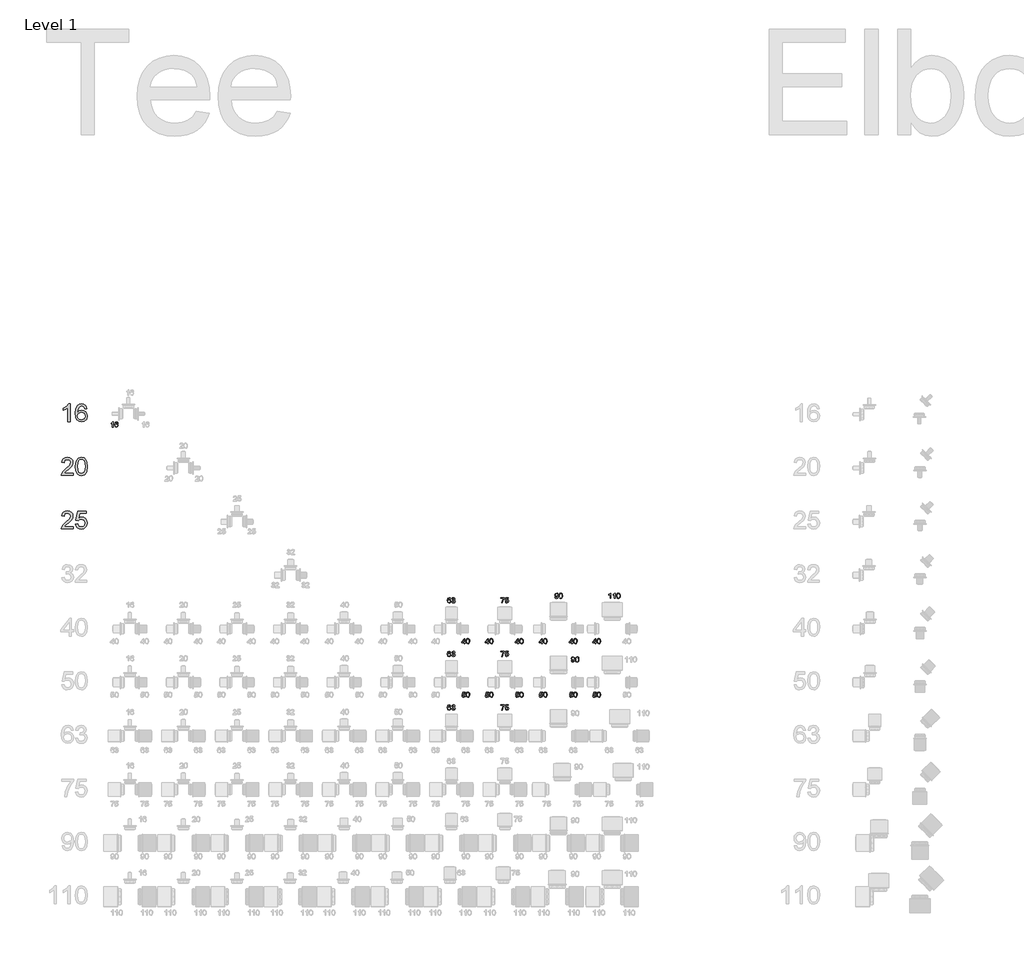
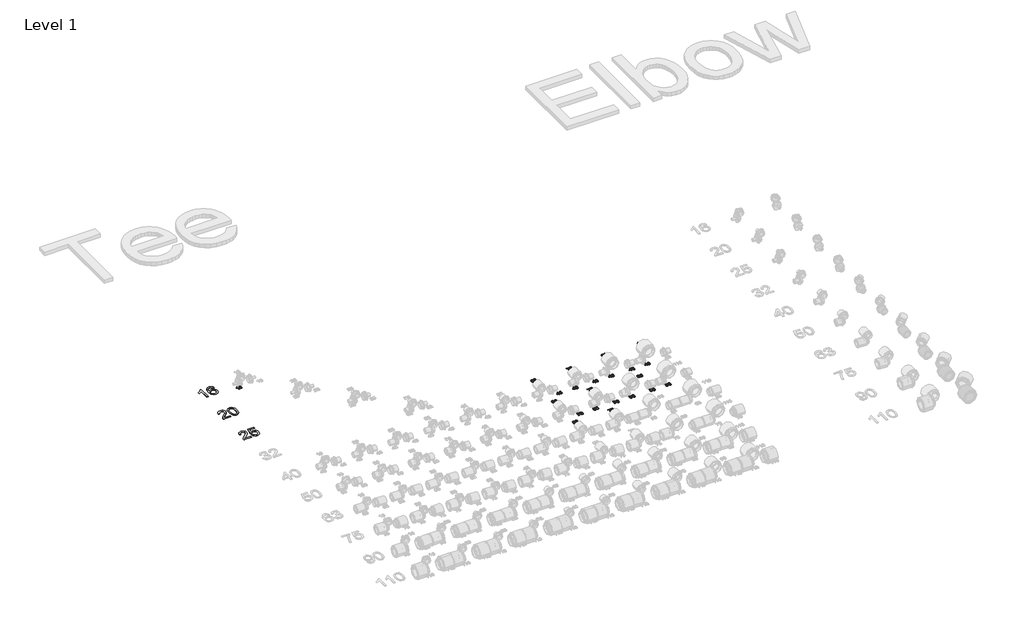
# One storey, part 25 of 58: 25 proxies.
"""IFC4 building model written with IfcOpenShell, lengths in millimetres."""

from ifc_helpers import new_model, si_unit, frame, origin, place, context, project, spatial, polyline, outline, extrude, element, save

model = new_model("IFC4")

# Units and contexts
model_context = context("Model", 3, world=origin())
ifc_project = project(units=[si_unit("LENGTHUNIT", "METRE", prefix="MILLI")], contexts=[model_context])

# Site, building, storey
site = spatial("IfcSite", under=ifc_project)
building = spatial("IfcBuilding", under=site)
storey = spatial("IfcBuildingStorey", under=building, Name="Level 1", Elevation=27.3876384)

# Proxies
placement = place(None, origin())
element("IfcBuildingElementProxy", 1, Name="100mm Arial", ObjectType="100mm Arial", at=placement, inside=storey, context=model_context, shape_type="SweptSolid", body=[
    extrude(outline(polyline([(12931.5703727, 18606.196048), (12919.0133339, 18606.196048), (12919.0133339, 18684.4813365), (12907.1184827, 18676.0077879), (12893.8992564, 18669.6679549), (12893.8992564, 18681.5382806), (12912.3056189, 18693.285979), (12923.4769688, 18706.6523581), (12931.5703727, 18706.6523581), (12931.5703727, 18606.196048)])), frame((0.0, 0.0, 27.3876384), z_axis=(0.0, 0.0, 1.0), x_axis=(1.0, 0.0, 0.0)), (0.0, 0.0, 1.0), 2.0),
    extrude(outline(polyline([(13025.7481635, 18679.9686507), (13013.1911247, 18678.3990209), (13008.4331842, 18688.871395), (12995.85162, 18694.0953193), (12984.5208545, 18691.0541615), (12975.949204, 18679.6375569), (12972.3807487, 18657.2580689), (12983.4539967, 18667.2767219), (12997.1759952, 18670.5508717), (13008.7765407, 18668.3129229), (13018.5131509, 18661.5990764), (13025.1166327, 18651.3413001), (13027.3177933, 18638.4715617), (13023.1729895, 18621.1443197), (13011.7686476, 18608.8815865), (12995.3120597, 18604.6264181), (12981.0658295, 18607.4468468), (12969.7197356, 18615.9081326), (12962.2977163, 18630.8441416), (12959.8237099, 18653.0887396), (12962.5705621, 18678.0985839), (12970.8111188, 18695.1989653), (12982.0621765, 18703.7890099), (12996.6364349, 18706.6523581), (13007.6545007, 18704.8803932), (13016.4775372, 18699.5644983), (13022.6579547, 18691.1216066), (13025.7481635, 18679.9686507)]), holes=[polyline([(12972.3807487, 18638.6677654), (12975.2870164, 18627.7907211), (12983.0125383, 18619.8935209), (12994.3310411, 18617.1834569), (13002.617583, 18618.5875398), (13009.13216, 18622.7997887), (13013.3536059, 18629.4216646), (13014.7607545, 18638.0546288), (13013.372, 18646.3411707), (13009.2057364, 18652.659544), (13002.5807948, 18656.6602607), (12993.8160063, 18657.9938329), (12978.6224799, 18652.659544), (12973.9411815, 18646.4944549), (12972.3807487, 18638.6677654)])]), frame((0.0, 0.0, 27.3876384), z_axis=(0.0, 0.0, 1.0), x_axis=(1.0, 0.0, 0.0)), (0.0, 0.0, 1.0), 2.0),
])
element("IfcBuildingElementProxy", 2, Name="100mm Arial", ObjectType="100mm Arial", at=placement, inside=storey, context=model_context, shape_type="SweptSolid", body=[
    extrude(outline(polyline([(12948.836301, 18318.7530867), (12948.836301, 18306.196048), (12882.9118475, 18306.196048), (12884.2607481, 18314.8535376), (12891.8881681, 18328.1831285), (12907.6089921, 18342.7389928), (12929.2895043, 18363.6592156), (12934.7096324, 18377.8839861), (12929.5960726, 18389.3986925), (12916.2419562, 18394.0953193), (12902.3237541, 18389.5090571), (12897.0385161, 18376.829391), (12884.4814773, 18378.3990209), (12887.5257008, 18390.5452581), (12894.1077228, 18399.4173455), (12903.8841869, 18404.843605), (12916.5117363, 18406.6523581), (12929.2312563, 18404.6412699), (12938.9893263, 18398.6080052), (12945.1973349, 18389.5948963), (12947.2666711, 18378.6442756), (12945.0348537, 18366.7371616), (12937.6159001, 18354.4253775), (12919.6264706, 18337.2207629), (12905.1809709, 18325.1419707), (12899.5155882, 18318.7530867), (12948.836301, 18318.7530867)])), frame((0.0, 0.0, 27.3876384), z_axis=(0.0, 0.0, 1.0), x_axis=(1.0, 0.0, 0.0)), (0.0, 0.0, 1.0), 2.0),
    extrude(outline(polyline([(12961.3933398, 18355.6148627), (12965.0844224, 18384.5181247), (12976.0473059, 18401.1831791), (12994.3555665, 18406.6523581), (13009.0217954, 18403.4149966), (13019.150813, 18394.0830566), (13025.0369249, 18379.220624), (13027.3177933, 18355.6148627), (13023.6634988, 18326.8342279), (13012.7374036, 18310.1323853), (13004.5060439, 18306.0029099), (12994.3555665, 18304.6264181), (12981.3080184, 18307.0176511), (12971.39973, 18314.19135), (12963.8949373, 18331.1813668), (12961.3933398, 18355.6148627)]), holes=[polyline([(12973.9503785, 18355.6393881), (12975.4219065, 18335.8871907), (12979.8364905, 18324.4552577), (12986.4093154, 18319.0014071), (12994.3555665, 18317.1834569), (13002.3018176, 18319.0075385), (13008.8746426, 18324.4797831), (13013.2892265, 18335.9178475), (13014.7607545, 18355.6393881), (13013.3382775, 18374.9470615), (13009.0708463, 18386.4678993), (13002.5102841, 18392.1884643), (12994.2084137, 18394.0953193), (12986.3480018, 18392.4153249), (12980.0326942, 18387.3753416), (12975.4709574, 18375.1371339), (12973.9503785, 18355.6393881)])]), frame((0.0, 0.0, 27.3876384), z_axis=(0.0, 0.0, 1.0), x_axis=(1.0, 0.0, 0.0)), (0.0, 0.0, 1.0), 2.0),
])
element("IfcBuildingElementProxy", 3, Name="100mm Arial", ObjectType="100mm Arial", at=placement, inside=storey, context=model_context, shape_type="SweptSolid", body=[
    extrude(outline(polyline([(12948.836301, 18018.7530867), (12948.836301, 18006.196048), (12882.9118475, 18006.196048), (12884.2607481, 18014.8535376), (12891.8881681, 18028.1831285), (12907.6089921, 18042.7389928), (12929.2895043, 18063.6592156), (12934.7096324, 18077.8839861), (12929.5960726, 18089.3986925), (12916.2419562, 18094.0953193), (12902.3237541, 18089.5090571), (12897.0385161, 18076.829391), (12884.4814773, 18078.3990209), (12887.5257008, 18090.5452581), (12894.1077228, 18099.4173455), (12903.8841869, 18104.843605), (12916.5117363, 18106.6523581), (12929.2312563, 18104.6412699), (12938.9893263, 18098.6080052), (12945.1973349, 18089.5948963), (12947.2666711, 18078.6442756), (12945.0348537, 18066.7371616), (12937.6159001, 18054.4253775), (12919.6264706, 18037.2207629), (12905.1809709, 18025.1419707), (12899.5155882, 18018.7530867), (12948.836301, 18018.7530867)])), frame((0.0, 0.0, 27.3876384), z_axis=(0.0, 0.0, 1.0), x_axis=(1.0, 0.0, 0.0)), (0.0, 0.0, 1.0), 2.0),
    extrude(outline(polyline([(12961.3933398, 18032.8797554), (12973.9503785, 18034.4493852), (12980.2779488, 18021.5122017), (12993.3990733, 18017.1834569), (13002.3999195, 18018.6887074), (13009.1444227, 18023.2044589), (13013.3566716, 18030.2095452), (13014.7607545, 18039.1828002), (13009.500042, 18054.0942837), (13002.8934945, 18058.196168), (12993.5952771, 18059.5634627), (12982.57108, 18057.3806962), (12975.5200084, 18051.7153135), (12962.9629696, 18053.2849434), (12973.9503785, 18105.0827283), (13022.6089038, 18105.0827283), (13022.6089038, 18092.5256895), (12984.1039216, 18092.5256895), (12978.7328445, 18064.8609635), (12987.7030338, 18070.305617), (12997.1024188, 18072.1205015), (13008.8347887, 18069.87029), (13018.5744645, 18063.1196554), (13025.1319611, 18052.8312222), (13027.3177933, 18039.9676151), (13025.3496246, 18027.4105764), (13019.4451186, 18016.6684221), (13008.1388786, 18007.6369191), (12993.3500224, 18004.6264181), (12981.0167785, 18006.5608643), (12971.1912636, 18012.3642028), (12964.4559574, 18021.3619832), (12961.3933398, 18032.8797554)])), frame((0.0, 0.0, 27.3876384), z_axis=(0.0, 0.0, 1.0), x_axis=(1.0, 0.0, 0.0)), (0.0, 0.0, 1.0), 2.0),
])
element("IfcBuildingElementProxy", 4, Name="30mm Arial", ObjectType="30mm Arial", at=placement, inside=storey, context=model_context, shape_type="SweptSolid", body=[
    extrude(outline(polyline([(13171.6620986, 18575.8288539), (13167.894987, 18575.8288539), (13167.894987, 18599.3144405), (13164.3265317, 18596.7723759), (13160.3607637, 18594.870426), (13160.3607637, 18598.4315237), (13165.8826725, 18601.9558332), (13169.2340775, 18605.965747), (13171.6620986, 18605.965747), (13171.6620986, 18575.8288539)])), frame((0.0, 0.0, 27.3876384), z_axis=(0.0, 0.0, 1.0), x_axis=(1.0, 0.0, 0.0)), (0.0, 0.0, 1.0), 2.0),
    extrude(outline(polyline([(13199.9154359, 18597.9606348), (13196.1483242, 18597.4897458), (13194.7209421, 18600.631458), (13190.9464728, 18602.1986353), (13187.5472432, 18601.286288), (13184.975748, 18597.8613066), (13183.9052114, 18591.1474602), (13187.2271859, 18594.1530561), (13191.3437854, 18595.135301), (13197.7449321, 18592.4497625), (13200.3863248, 18585.511508), (13199.1428837, 18580.3133355), (13195.7215811, 18576.6345155), (13190.7846047, 18575.357965), (13183.1069075, 18578.7424793), (13180.1380998, 18589.8966614), (13183.4343225, 18602.5297291), (13191.1819173, 18605.965747), (13197.134248, 18603.839389), (13199.9154359, 18597.9606348)]), holes=[polyline([(13183.9052114, 18585.5703692), (13184.7770918, 18582.3072559), (13187.0947483, 18579.9380958), (13190.4902992, 18579.1250766), (13194.9306348, 18580.8099761), (13196.6192132, 18585.3864282), (13194.9527078, 18589.7679027), (13190.3357887, 18591.3681894), (13185.7777308, 18589.7679027), (13183.9052114, 18585.5703692)])]), frame((0.0, 0.0, 27.3876384), z_axis=(0.0, 0.0, 1.0), x_axis=(1.0, 0.0, 0.0)), (0.0, 0.0, 1.0), 2.0),
])
element("IfcBuildingElementProxy", 5, Name="30mm Arial", ObjectType="30mm Arial", at=placement, inside=storey, context=model_context, shape_type="SweptSolid", body=[
    extrude(outline(polyline([(15137.5285428, 17362.5788539), (15137.5285428, 17369.6421882), (15123.8727632, 17369.6421882), (15123.8727632, 17373.4092999), (15138.4703207, 17392.244858), (15141.2956545, 17392.244858), (15141.2956545, 17373.4092999), (15145.0627661, 17373.4092999), (15145.0627661, 17369.6421882), (15141.2956545, 17369.6421882), (15141.2956545, 17362.5788539), (15137.5285428, 17362.5788539)]), holes=[polyline([(15137.5285428, 17373.4092999), (15137.5285428, 17385.0490862), (15128.5080763, 17373.4092999), (15137.5285428, 17373.4092999)])]), frame((0.0, 0.0, 27.3876384), z_axis=(0.0, 0.0, 1.0), x_axis=(1.0, 0.0, 0.0)), (0.0, 0.0, 1.0), 2.0),
    extrude(outline(polyline([(15148.3589888, 17377.4044983), (15149.4663136, 17386.075477), (15152.7551786, 17391.0749933), (15158.2476568, 17392.715747), (15162.6475255, 17391.7445385), (15165.6862307, 17388.9449565), (15167.4520643, 17384.4862267), (15168.1363248, 17377.4044983), (15167.0400365, 17368.7703079), (15163.7622079, 17363.7597551), (15158.2476568, 17362.107965), (15151.3609058, 17364.9774445), (15148.3589888, 17377.4044983)]), holes=[polyline([(15152.1261004, 17377.411856), (15153.891934, 17368.0566168), (15158.2476568, 17365.8750766), (15162.6033796, 17368.0639745), (15164.3692132, 17377.411856), (15162.6622407, 17386.6604093), (15158.203511, 17388.9486353), (15153.9507951, 17386.932642), (15152.1261004, 17377.411856)])]), frame((0.0, 0.0, 27.3876384), z_axis=(0.0, 0.0, 1.0), x_axis=(1.0, 0.0, 0.0)), (0.0, 0.0, 1.0), 2.0),
])
element("IfcBuildingElementProxy", 6, Name="30mm Arial", ObjectType="30mm Arial", at=placement, inside=storey, context=model_context, shape_type="SweptSolid", body=[
    extrude(outline(polyline([(15062.7700619, 17613.5292753), (15059.0029503, 17613.0583864), (15057.5755682, 17616.2000986), (15053.8010989, 17617.7672759), (15050.4018693, 17616.8549286), (15047.8303741, 17613.4299472), (15046.7598375, 17606.7161008), (15050.0818119, 17609.7216967), (15054.1984114, 17610.7039416), (15060.5995582, 17608.018403), (15063.2409509, 17601.0801486), (15061.9975097, 17595.881976), (15058.5762072, 17592.2031561), (15053.6392308, 17590.9266055), (15045.9615336, 17594.3111199), (15042.9927259, 17605.465302), (15046.2889486, 17618.0983697), (15054.0365434, 17621.5343875), (15059.9888741, 17619.4080296), (15062.7700619, 17613.5292753)]), holes=[polyline([(15046.7598375, 17601.1390097), (15047.6317178, 17597.8758964), (15049.9493744, 17595.5067364), (15053.3449252, 17594.6937172), (15057.7852609, 17596.3786167), (15059.4738393, 17600.9550687), (15057.8073338, 17605.3365433), (15053.1904148, 17606.93683), (15048.6323569, 17605.3365433), (15046.7598375, 17601.1390097)])]), frame((0.0, 0.0, 27.3876384), z_axis=(0.0, 0.0, 1.0), x_axis=(1.0, 0.0, 0.0)), (0.0, 0.0, 1.0), 2.0),
    extrude(outline(polyline([(15066.5371736, 17599.4026067), (15070.3042852, 17599.8734957), (15072.3828185, 17595.9077278), (15076.2713312, 17594.6937172), (15080.8477832, 17596.3639014), (15082.547398, 17600.4988951), (15080.8624985, 17604.3947654), (15076.580352, 17605.9361909), (15073.9389593, 17605.5241631), (15074.3583448, 17609.2912747), (15079.23646, 17610.328702), (15081.1347311, 17613.6543552), (15079.7588525, 17616.60109), (15076.21247, 17617.7672759), (15072.6219418, 17616.5900535), (15070.7751742, 17613.0583864), (15067.0080625, 17613.5292753), (15070.0909136, 17619.4374602), (15076.0800325, 17621.5343875), (15080.6233752, 17620.5006391), (15083.8018756, 17617.6753054), (15084.9018428, 17613.8750844), (15083.8570579, 17610.4022784), (15080.7668491, 17607.9080384), (15084.8724122, 17605.3328645), (15086.3145096, 17600.4326763), (15083.4303148, 17593.6930781), (15076.1388936, 17590.9266055), (15069.531733, 17593.2884079), (15066.5371736, 17599.4026067)])), frame((0.0, 0.0, 27.3876384), z_axis=(0.0, 0.0, 1.0), x_axis=(1.0, 0.0, 0.0)), (0.0, 0.0, 1.0), 2.0),
])
element("IfcBuildingElementProxy", 7, Name="30mm Arial", ObjectType="30mm Arial", at=placement, inside=storey, context=model_context, shape_type="SweptSolid", body=[
    extrude(outline(polyline([(15268.7785428, 17362.5788539), (15268.7785428, 17369.6421882), (15255.1227632, 17369.6421882), (15255.1227632, 17373.4092999), (15269.7203207, 17392.244858), (15272.5456545, 17392.244858), (15272.5456545, 17373.4092999), (15276.3127661, 17373.4092999), (15276.3127661, 17369.6421882), (15272.5456545, 17369.6421882), (15272.5456545, 17362.5788539), (15268.7785428, 17362.5788539)]), holes=[polyline([(15268.7785428, 17373.4092999), (15268.7785428, 17385.0490862), (15259.7580763, 17373.4092999), (15268.7785428, 17373.4092999)])]), frame((0.0, 0.0, 27.3876384), z_axis=(0.0, 0.0, 1.0), x_axis=(1.0, 0.0, 0.0)), (0.0, 0.0, 1.0), 2.0),
    extrude(outline(polyline([(15279.6089888, 17377.4044983), (15280.7163136, 17386.075477), (15284.0051786, 17391.0749933), (15289.4976568, 17392.715747), (15293.8975255, 17391.7445385), (15296.9362307, 17388.9449565), (15298.7020643, 17384.4862267), (15299.3863248, 17377.4044983), (15298.2900365, 17368.7703079), (15295.0122079, 17363.7597551), (15289.4976568, 17362.107965), (15282.6109058, 17364.9774445), (15279.6089888, 17377.4044983)]), holes=[polyline([(15283.3761004, 17377.411856), (15285.141934, 17368.0566168), (15289.4976568, 17365.8750766), (15293.8533796, 17368.0639745), (15295.6192132, 17377.411856), (15293.9122407, 17386.6604093), (15289.453511, 17388.9486353), (15285.2007951, 17386.932642), (15283.3761004, 17377.411856)])]), frame((0.0, 0.0, 27.3876384), z_axis=(0.0, 0.0, 1.0), x_axis=(1.0, 0.0, 0.0)), (0.0, 0.0, 1.0), 2.0),
])
element("IfcBuildingElementProxy", 8, Name="30mm Arial", ObjectType="30mm Arial", at=placement, inside=storey, context=model_context, shape_type="SweptSolid", body=[
    extrude(outline(polyline([(15437.5285428, 17362.5788539), (15437.5285428, 17369.6421882), (15423.8727632, 17369.6421882), (15423.8727632, 17373.4092999), (15438.4703207, 17392.244858), (15441.2956545, 17392.244858), (15441.2956545, 17373.4092999), (15445.0627661, 17373.4092999), (15445.0627661, 17369.6421882), (15441.2956545, 17369.6421882), (15441.2956545, 17362.5788539), (15437.5285428, 17362.5788539)]), holes=[polyline([(15437.5285428, 17373.4092999), (15437.5285428, 17385.0490862), (15428.5080763, 17373.4092999), (15437.5285428, 17373.4092999)])]), frame((0.0, 0.0, 27.3876384), z_axis=(0.0, 0.0, 1.0), x_axis=(1.0, 0.0, 0.0)), (0.0, 0.0, 1.0), 2.0),
    extrude(outline(polyline([(15448.3589888, 17377.4044983), (15449.4663136, 17386.075477), (15452.7551786, 17391.0749933), (15458.2476568, 17392.715747), (15462.6475255, 17391.7445385), (15465.6862307, 17388.9449565), (15467.4520643, 17384.4862267), (15468.1363248, 17377.4044983), (15467.0400365, 17368.7703079), (15463.7622079, 17363.7597551), (15458.2476568, 17362.107965), (15451.3609058, 17364.9774445), (15448.3589888, 17377.4044983)]), holes=[polyline([(15452.1261004, 17377.411856), (15453.891934, 17368.0566168), (15458.2476568, 17365.8750766), (15462.6033796, 17368.0639745), (15464.3692132, 17377.411856), (15462.6622407, 17386.6604093), (15458.203511, 17388.9486353), (15453.9507951, 17386.932642), (15452.1261004, 17377.411856)])]), frame((0.0, 0.0, 27.3876384), z_axis=(0.0, 0.0, 1.0), x_axis=(1.0, 0.0, 0.0)), (0.0, 0.0, 1.0), 2.0),
])
element("IfcBuildingElementProxy", 9, Name="30mm Arial", ObjectType="30mm Arial", at=placement, inside=storey, context=model_context, shape_type="SweptSolid", body=[
    extrude(outline(polyline([(15343.4636148, 17617.296387), (15343.4636148, 17621.0634986), (15363.2409509, 17621.0634986), (15363.2409509, 17618.0174357), (15357.6307505, 17609.9129953), (15353.3375676, 17599.5865477), (15351.939616, 17591.3974945), (15348.1725044, 17591.3974945), (15349.6697841, 17599.8955686), (15353.779026, 17609.5009675), (15359.4738393, 17617.296387), (15343.4636148, 17617.296387)])), frame((0.0, 0.0, 27.3876384), z_axis=(0.0, 0.0, 1.0), x_axis=(1.0, 0.0, 0.0)), (0.0, 0.0, 1.0), 2.0),
    extrude(outline(polyline([(15366.5371736, 17599.4026067), (15370.3042852, 17599.8734957), (15372.2025563, 17595.9923406), (15376.1388936, 17594.6937172), (15380.8624985, 17596.5000178), (15382.547398, 17601.2935202), (15380.9691842, 17605.7669652), (15376.1977548, 17607.4077189), (15372.8904956, 17606.752889), (15370.7751742, 17605.0532742), (15367.0080625, 17605.5241631), (15370.3042852, 17621.0634986), (15384.9018428, 17621.0634986), (15384.9018428, 17617.296387), (15373.3503481, 17617.296387), (15371.739025, 17608.9969691), (15377.2498973, 17611.1748306), (15383.691511, 17608.4745767), (15386.3145096, 17601.5289646), (15383.9527072, 17594.5392067), (15376.1241784, 17590.9266055), (15369.4765507, 17593.2479409), (15366.5371736, 17599.4026067)])), frame((0.0, 0.0, 27.3876384), z_axis=(0.0, 0.0, 1.0), x_axis=(1.0, 0.0, 0.0)), (0.0, 0.0, 1.0), 2.0),
])
element("IfcBuildingElementProxy", 10, Name="30mm Arial", ObjectType="30mm Arial", at=placement, inside=storey, context=model_context, shape_type="SweptSolid", body=[
    extrude(outline(polyline([(15570.7785428, 17362.5788539), (15570.7785428, 17369.6421882), (15557.1227632, 17369.6421882), (15557.1227632, 17373.4092999), (15571.7203207, 17392.244858), (15574.5456545, 17392.244858), (15574.5456545, 17373.4092999), (15578.3127661, 17373.4092999), (15578.3127661, 17369.6421882), (15574.5456545, 17369.6421882), (15574.5456545, 17362.5788539), (15570.7785428, 17362.5788539)]), holes=[polyline([(15570.7785428, 17373.4092999), (15570.7785428, 17385.0490862), (15561.7580763, 17373.4092999), (15570.7785428, 17373.4092999)])]), frame((0.0, 0.0, 27.3876384), z_axis=(0.0, 0.0, 1.0), x_axis=(1.0, 0.0, 0.0)), (0.0, 0.0, 1.0), 2.0),
    extrude(outline(polyline([(15581.6089888, 17377.4044983), (15582.7163136, 17386.075477), (15586.0051786, 17391.0749933), (15591.4976568, 17392.715747), (15595.8975255, 17391.7445385), (15598.9362307, 17388.9449565), (15600.7020643, 17384.4862267), (15601.3863248, 17377.4044983), (15600.2900365, 17368.7703079), (15597.0122079, 17363.7597551), (15591.4976568, 17362.107965), (15584.6109058, 17364.9774445), (15581.6089888, 17377.4044983)]), holes=[polyline([(15585.3761004, 17377.411856), (15587.141934, 17368.0566168), (15591.4976568, 17365.8750766), (15595.8533796, 17368.0639745), (15597.6192132, 17377.411856), (15595.9122407, 17386.6604093), (15591.453511, 17388.9486353), (15587.2007951, 17386.932642), (15585.3761004, 17377.411856)])]), frame((0.0, 0.0, 27.3876384), z_axis=(0.0, 0.0, 1.0), x_axis=(1.0, 0.0, 0.0)), (0.0, 0.0, 1.0), 2.0),
])
element("IfcBuildingElementProxy", 11, Name="30mm Arial", ObjectType="30mm Arial", at=placement, inside=storey, context=model_context, shape_type="SweptSolid", body=[
    extrude(outline(polyline([(15739.5285428, 17362.5788539), (15739.5285428, 17369.6421882), (15725.8727632, 17369.6421882), (15725.8727632, 17373.4092999), (15740.4703207, 17392.244858), (15743.2956545, 17392.244858), (15743.2956545, 17373.4092999), (15747.0627661, 17373.4092999), (15747.0627661, 17369.6421882), (15743.2956545, 17369.6421882), (15743.2956545, 17362.5788539), (15739.5285428, 17362.5788539)]), holes=[polyline([(15739.5285428, 17373.4092999), (15739.5285428, 17385.0490862), (15730.5080763, 17373.4092999), (15739.5285428, 17373.4092999)])]), frame((0.0, 0.0, 27.3876384), z_axis=(0.0, 0.0, 1.0), x_axis=(1.0, 0.0, 0.0)), (0.0, 0.0, 1.0), 2.0),
    extrude(outline(polyline([(15750.3589888, 17377.4044983), (15751.4663136, 17386.075477), (15754.7551786, 17391.0749933), (15760.2476568, 17392.715747), (15764.6475255, 17391.7445385), (15767.6862307, 17388.9449565), (15769.4520643, 17384.4862267), (15770.1363248, 17377.4044983), (15769.0400365, 17368.7703079), (15765.7622079, 17363.7597551), (15760.2476568, 17362.107965), (15753.3609058, 17364.9774445), (15750.3589888, 17377.4044983)]), holes=[polyline([(15754.1261004, 17377.411856), (15755.891934, 17368.0566168), (15760.2476568, 17365.8750766), (15764.6033796, 17368.0639745), (15766.3692132, 17377.411856), (15764.6622407, 17386.6604093), (15760.203511, 17388.9486353), (15755.9507951, 17386.932642), (15754.1261004, 17377.411856)])]), frame((0.0, 0.0, 27.3876384), z_axis=(0.0, 0.0, 1.0), x_axis=(1.0, 0.0, 0.0)), (0.0, 0.0, 1.0), 2.0),
])
element("IfcBuildingElementProxy", 12, Name="30mm Arial", ObjectType="30mm Arial", at=placement, inside=storey, context=model_context, shape_type="SweptSolid", body=[
    extrude(outline(polyline([(15645.9345038, 17623.9317178), (15649.7016154, 17624.4026067), (15651.3938726, 17620.8083996), (15654.6018036, 17619.6937172), (15657.6515453, 17620.4110871), (15659.7190421, 17622.3277523), (15660.9514468, 17625.601902), (15661.4959122, 17629.9723401), (15658.4608857, 17627.8533398), (15654.3295709, 17626.7570515), (15648.03511, 17629.4352324), (15645.4636148, 17636.4912091), (15648.1601899, 17643.7752726), (15654.9181821, 17646.5343875), (15660.2855804, 17644.9598526), (15663.9791156, 17640.4716923), (15665.2409509, 17632.0398369), (15663.9827945, 17622.8906117), (15660.2414346, 17617.7071544), (15654.4252202, 17615.9266055), (15648.6347576, 17618.0272117), (15645.9345038, 17623.9317178)]), holes=[polyline([(15661.4738393, 17636.5795007), (15659.8478008, 17641.0970916), (15655.5288662, 17642.7672759), (15650.99656, 17640.968333), (15649.2307265, 17636.3072681), (15650.9009107, 17632.1318074), (15655.4258593, 17630.5241631), (15659.7705456, 17632.1318074), (15661.4738393, 17636.5795007)])]), frame((0.0, 0.0, 27.3876384), z_axis=(0.0, 0.0, 1.0), x_axis=(1.0, 0.0, 0.0)), (0.0, 0.0, 1.0), 2.0),
    extrude(outline(polyline([(15668.5371736, 17631.2231389), (15669.6444984, 17639.8941175), (15672.9333634, 17644.8936338), (15678.4258416, 17646.5343875), (15682.8257103, 17645.5631791), (15685.8644155, 17642.7635971), (15687.6302491, 17638.3048673), (15688.3145096, 17631.2231389), (15687.2182213, 17622.5889485), (15683.9403927, 17617.5783957), (15678.4258416, 17615.9266055), (15671.5390906, 17618.7960851), (15668.5371736, 17631.2231389)]), holes=[polyline([(15672.3042852, 17631.2304965), (15674.0701188, 17621.8752574), (15678.4258416, 17619.6937172), (15682.7815644, 17621.882615), (15684.547398, 17631.2304965), (15682.8404255, 17640.4790499), (15678.3816958, 17642.7672759), (15674.1289799, 17640.7512826), (15672.3042852, 17631.2304965)])]), frame((0.0, 0.0, 27.3876384), z_axis=(0.0, 0.0, 1.0), x_axis=(1.0, 0.0, 0.0)), (0.0, 0.0, 1.0), 2.0),
])
element("IfcBuildingElementProxy", 13, Name="30mm Arial", ObjectType="30mm Arial", at=placement, inside=storey, context=model_context, shape_type="SweptSolid", body=[
    extrude(outline(polyline([(15870.7785428, 17362.5788539), (15870.7785428, 17369.6421882), (15857.1227632, 17369.6421882), (15857.1227632, 17373.4092999), (15871.7203207, 17392.244858), (15874.5456545, 17392.244858), (15874.5456545, 17373.4092999), (15878.3127661, 17373.4092999), (15878.3127661, 17369.6421882), (15874.5456545, 17369.6421882), (15874.5456545, 17362.5788539), (15870.7785428, 17362.5788539)]), holes=[polyline([(15870.7785428, 17373.4092999), (15870.7785428, 17385.0490862), (15861.7580763, 17373.4092999), (15870.7785428, 17373.4092999)])]), frame((0.0, 0.0, 27.3876384), z_axis=(0.0, 0.0, 1.0), x_axis=(1.0, 0.0, 0.0)), (0.0, 0.0, 1.0), 2.0),
    extrude(outline(polyline([(15881.6089888, 17377.4044983), (15882.7163136, 17386.075477), (15886.0051786, 17391.0749933), (15891.4976568, 17392.715747), (15895.8975255, 17391.7445385), (15898.9362307, 17388.9449565), (15900.7020643, 17384.4862267), (15901.3863248, 17377.4044983), (15900.2900365, 17368.7703079), (15897.0122079, 17363.7597551), (15891.4976568, 17362.107965), (15884.6109058, 17364.9774445), (15881.6089888, 17377.4044983)]), holes=[polyline([(15885.3761004, 17377.411856), (15887.141934, 17368.0566168), (15891.4976568, 17365.8750766), (15895.8533796, 17368.0639745), (15897.6192132, 17377.411856), (15895.9122407, 17386.6604093), (15891.453511, 17388.9486353), (15887.2007951, 17386.932642), (15885.3761004, 17377.411856)])]), frame((0.0, 0.0, 27.3876384), z_axis=(0.0, 0.0, 1.0), x_axis=(1.0, 0.0, 0.0)), (0.0, 0.0, 1.0), 2.0),
])
element("IfcBuildingElementProxy", 14, Name="30mm Arial", ObjectType="30mm Arial", at=placement, inside=storey, context=model_context, shape_type="SweptSolid", body=[
    extrude(outline(polyline([(15959.5902834, 17616.3974945), (15955.8231718, 17616.3974945), (15955.8231718, 17639.8830811), (15952.2547165, 17637.3410165), (15948.2889486, 17635.4390666), (15948.2889486, 17639.0001643), (15953.8108573, 17642.5244738), (15957.1622623, 17646.5343875), (15959.5902834, 17646.5343875), (15959.5902834, 17616.3974945)])), frame((0.0, 0.0, 27.3876384), z_axis=(0.0, 0.0, 1.0), x_axis=(1.0, 0.0, 0.0)), (0.0, 0.0, 1.0), 2.0),
    extrude(outline(polyline([(15982.6638422, 17616.3974945), (15978.8967306, 17616.3974945), (15978.8967306, 17639.8830811), (15975.3282752, 17637.3410165), (15971.3625073, 17635.4390666), (15971.3625073, 17639.0001643), (15976.884416, 17642.5244738), (15980.235821, 17646.5343875), (15982.6638422, 17646.5343875), (15982.6638422, 17616.3974945)])), frame((0.0, 0.0, 27.3876384), z_axis=(0.0, 0.0, 1.0), x_axis=(1.0, 0.0, 0.0)), (0.0, 0.0, 1.0), 2.0),
    extrude(outline(polyline([(15991.6107323, 17631.2231389), (15992.7180571, 17639.8941175), (15996.0069221, 17644.8936338), (16001.4994003, 17646.5343875), (16005.899269, 17645.5631791), (16008.9379743, 17642.7635971), (16010.7038079, 17638.3048673), (16011.3880684, 17631.2231389), (16010.29178, 17622.5889485), (16007.0139514, 17617.5783957), (16001.4994003, 17615.9266055), (15994.6126494, 17618.7960851), (15991.6107323, 17631.2231389)]), holes=[polyline([(15995.3778439, 17631.2304965), (15997.1436775, 17621.8752574), (16001.4994003, 17619.6937172), (16005.8551232, 17621.882615), (16007.6209567, 17631.2304965), (16005.9139843, 17640.4790499), (16001.4552545, 17642.7672759), (15997.2025386, 17640.7512826), (15995.3778439, 17631.2304965)])]), frame((0.0, 0.0, 27.3876384), z_axis=(0.0, 0.0, 1.0), x_axis=(1.0, 0.0, 0.0)), (0.0, 0.0, 1.0), 2.0),
])
element("IfcBuildingElementProxy", 15, Name="30mm Arial", ObjectType="30mm Arial", at=placement, inside=storey, context=model_context, shape_type="SweptSolid", body=[
    extrude(outline(polyline([(15125.28543, 17070.5839661), (15129.0525417, 17071.0548551), (15130.9508128, 17067.1737001), (15134.8871501, 17065.8750766), (15139.6107549, 17067.6813772), (15141.2956545, 17072.4748796), (15139.7174407, 17076.9483247), (15134.9460112, 17078.5890784), (15131.6387521, 17077.9342484), (15129.5234306, 17076.2346336), (15125.756319, 17076.7055225), (15129.0525417, 17092.244858), (15143.6500992, 17092.244858), (15143.6500992, 17088.4777464), (15132.0986046, 17088.4777464), (15130.4872814, 17080.1783286), (15135.9981537, 17082.35619), (15142.4397675, 17079.6559361), (15145.0627661, 17072.7103241), (15142.7009637, 17065.7205662), (15134.8724348, 17062.107965), (15128.2248072, 17064.4293004), (15125.28543, 17070.5839661)])), frame((0.0, 0.0, 27.3876384), z_axis=(0.0, 0.0, 1.0), x_axis=(1.0, 0.0, 0.0)), (0.0, 0.0, 1.0), 2.0),
    extrude(outline(polyline([(15148.3589888, 17077.4044983), (15149.4663136, 17086.075477), (15152.7551786, 17091.0749933), (15158.2476568, 17092.715747), (15162.6475255, 17091.7445385), (15165.6862307, 17088.9449565), (15167.4520643, 17084.4862267), (15168.1363248, 17077.4044983), (15167.0400365, 17068.7703079), (15163.7622079, 17063.7597551), (15158.2476568, 17062.107965), (15151.3609058, 17064.9774445), (15148.3589888, 17077.4044983)]), holes=[polyline([(15152.1261004, 17077.411856), (15153.891934, 17068.0566168), (15158.2476568, 17065.8750766), (15162.6033796, 17068.0639745), (15164.3692132, 17077.411856), (15162.6622407, 17086.6604093), (15158.203511, 17088.9486353), (15153.9507951, 17086.932642), (15152.1261004, 17077.411856)])]), frame((0.0, 0.0, 27.3876384), z_axis=(0.0, 0.0, 1.0), x_axis=(1.0, 0.0, 0.0)), (0.0, 0.0, 1.0), 2.0),
])
element("IfcBuildingElementProxy", 16, Name="30mm Arial", ObjectType="30mm Arial", at=placement, inside=storey, context=model_context, shape_type="SweptSolid", body=[
    extrude(outline(polyline([(15062.7700619, 17313.5292753), (15059.0029503, 17313.0583864), (15057.5755682, 17316.2000986), (15053.8010989, 17317.7672759), (15050.4018693, 17316.8549286), (15047.8303741, 17313.4299472), (15046.7598375, 17306.7161008), (15050.0818119, 17309.7216967), (15054.1984114, 17310.7039416), (15060.5995582, 17308.018403), (15063.2409509, 17301.0801486), (15061.9975097, 17295.881976), (15058.5762072, 17292.2031561), (15053.6392308, 17290.9266055), (15045.9615336, 17294.3111199), (15042.9927259, 17305.465302), (15046.2889486, 17318.0983697), (15054.0365434, 17321.5343875), (15059.9888741, 17319.4080296), (15062.7700619, 17313.5292753)]), holes=[polyline([(15046.7598375, 17301.1390097), (15047.6317178, 17297.8758964), (15049.9493744, 17295.5067364), (15053.3449252, 17294.6937172), (15057.7852609, 17296.3786167), (15059.4738393, 17300.9550687), (15057.8073338, 17305.3365433), (15053.1904148, 17306.93683), (15048.6323569, 17305.3365433), (15046.7598375, 17301.1390097)])]), frame((0.0, 0.0, 27.3876384), z_axis=(0.0, 0.0, 1.0), x_axis=(1.0, 0.0, 0.0)), (0.0, 0.0, 1.0), 2.0),
    extrude(outline(polyline([(15066.5371736, 17299.4026067), (15070.3042852, 17299.8734957), (15072.3828185, 17295.9077278), (15076.2713312, 17294.6937172), (15080.8477832, 17296.3639014), (15082.547398, 17300.4988951), (15080.8624985, 17304.3947654), (15076.580352, 17305.9361909), (15073.9389593, 17305.5241631), (15074.3583448, 17309.2912747), (15079.23646, 17310.328702), (15081.1347311, 17313.6543552), (15079.7588525, 17316.60109), (15076.21247, 17317.7672759), (15072.6219418, 17316.5900535), (15070.7751742, 17313.0583864), (15067.0080625, 17313.5292753), (15070.0909136, 17319.4374602), (15076.0800325, 17321.5343875), (15080.6233752, 17320.5006391), (15083.8018756, 17317.6753054), (15084.9018428, 17313.8750844), (15083.8570579, 17310.4022784), (15080.7668491, 17307.9080384), (15084.8724122, 17305.3328645), (15086.3145096, 17300.4326763), (15083.4303148, 17293.6930781), (15076.1388936, 17290.9266055), (15069.531733, 17293.2884079), (15066.5371736, 17299.4026067)])), frame((0.0, 0.0, 27.3876384), z_axis=(0.0, 0.0, 1.0), x_axis=(1.0, 0.0, 0.0)), (0.0, 0.0, 1.0), 2.0),
])
element("IfcBuildingElementProxy", 17, Name="30mm Arial", ObjectType="30mm Arial", at=placement, inside=storey, context=model_context, shape_type="SweptSolid", body=[
    extrude(outline(polyline([(15256.53543, 17070.5839661), (15260.3025417, 17071.0548551), (15262.2008128, 17067.1737001), (15266.1371501, 17065.8750766), (15270.8607549, 17067.6813772), (15272.5456545, 17072.4748796), (15270.9674407, 17076.9483247), (15266.1960112, 17078.5890784), (15262.8887521, 17077.9342484), (15260.7734306, 17076.2346336), (15257.006319, 17076.7055225), (15260.3025417, 17092.244858), (15274.9000992, 17092.244858), (15274.9000992, 17088.4777464), (15263.3486046, 17088.4777464), (15261.7372814, 17080.1783286), (15267.2481537, 17082.35619), (15273.6897675, 17079.6559361), (15276.3127661, 17072.7103241), (15273.9509637, 17065.7205662), (15266.1224348, 17062.107965), (15259.4748072, 17064.4293004), (15256.53543, 17070.5839661)])), frame((0.0, 0.0, 27.3876384), z_axis=(0.0, 0.0, 1.0), x_axis=(1.0, 0.0, 0.0)), (0.0, 0.0, 1.0), 2.0),
    extrude(outline(polyline([(15279.6089888, 17077.4044983), (15280.7163136, 17086.075477), (15284.0051786, 17091.0749933), (15289.4976568, 17092.715747), (15293.8975255, 17091.7445385), (15296.9362307, 17088.9449565), (15298.7020643, 17084.4862267), (15299.3863248, 17077.4044983), (15298.2900365, 17068.7703079), (15295.0122079, 17063.7597551), (15289.4976568, 17062.107965), (15282.6109058, 17064.9774445), (15279.6089888, 17077.4044983)]), holes=[polyline([(15283.3761004, 17077.411856), (15285.141934, 17068.0566168), (15289.4976568, 17065.8750766), (15293.8533796, 17068.0639745), (15295.6192132, 17077.411856), (15293.9122407, 17086.6604093), (15289.453511, 17088.9486353), (15285.2007951, 17086.932642), (15283.3761004, 17077.411856)])]), frame((0.0, 0.0, 27.3876384), z_axis=(0.0, 0.0, 1.0), x_axis=(1.0, 0.0, 0.0)), (0.0, 0.0, 1.0), 2.0),
])
element("IfcBuildingElementProxy", 18, Name="30mm Arial", ObjectType="30mm Arial", at=placement, inside=storey, context=model_context, shape_type="SweptSolid", body=[
    extrude(outline(polyline([(15425.28543, 17070.5839661), (15429.0525417, 17071.0548551), (15430.9508128, 17067.1737001), (15434.8871501, 17065.8750766), (15439.6107549, 17067.6813772), (15441.2956545, 17072.4748796), (15439.7174407, 17076.9483247), (15434.9460112, 17078.5890784), (15431.6387521, 17077.9342484), (15429.5234306, 17076.2346336), (15425.756319, 17076.7055225), (15429.0525417, 17092.244858), (15443.6500992, 17092.244858), (15443.6500992, 17088.4777464), (15432.0986046, 17088.4777464), (15430.4872814, 17080.1783286), (15435.9981537, 17082.35619), (15442.4397675, 17079.6559361), (15445.0627661, 17072.7103241), (15442.7009637, 17065.7205662), (15434.8724348, 17062.107965), (15428.2248072, 17064.4293004), (15425.28543, 17070.5839661)])), frame((0.0, 0.0, 27.3876384), z_axis=(0.0, 0.0, 1.0), x_axis=(1.0, 0.0, 0.0)), (0.0, 0.0, 1.0), 2.0),
    extrude(outline(polyline([(15448.3589888, 17077.4044983), (15449.4663136, 17086.075477), (15452.7551786, 17091.0749933), (15458.2476568, 17092.715747), (15462.6475255, 17091.7445385), (15465.6862307, 17088.9449565), (15467.4520643, 17084.4862267), (15468.1363248, 17077.4044983), (15467.0400365, 17068.7703079), (15463.7622079, 17063.7597551), (15458.2476568, 17062.107965), (15451.3609058, 17064.9774445), (15448.3589888, 17077.4044983)]), holes=[polyline([(15452.1261004, 17077.411856), (15453.891934, 17068.0566168), (15458.2476568, 17065.8750766), (15462.6033796, 17068.0639745), (15464.3692132, 17077.411856), (15462.6622407, 17086.6604093), (15458.203511, 17088.9486353), (15453.9507951, 17086.932642), (15452.1261004, 17077.411856)])]), frame((0.0, 0.0, 27.3876384), z_axis=(0.0, 0.0, 1.0), x_axis=(1.0, 0.0, 0.0)), (0.0, 0.0, 1.0), 2.0),
])
element("IfcBuildingElementProxy", 19, Name="30mm Arial", ObjectType="30mm Arial", at=placement, inside=storey, context=model_context, shape_type="SweptSolid", body=[
    extrude(outline(polyline([(15343.4636148, 17317.296387), (15343.4636148, 17321.0634986), (15363.2409509, 17321.0634986), (15363.2409509, 17318.0174357), (15357.6307505, 17309.9129953), (15353.3375676, 17299.5865477), (15351.939616, 17291.3974945), (15348.1725044, 17291.3974945), (15349.6697841, 17299.8955686), (15353.779026, 17309.5009675), (15359.4738393, 17317.296387), (15343.4636148, 17317.296387)])), frame((0.0, 0.0, 27.3876384), z_axis=(0.0, 0.0, 1.0), x_axis=(1.0, 0.0, 0.0)), (0.0, 0.0, 1.0), 2.0),
    extrude(outline(polyline([(15366.5371736, 17299.4026067), (15370.3042852, 17299.8734957), (15372.2025563, 17295.9923406), (15376.1388936, 17294.6937172), (15380.8624985, 17296.5000178), (15382.547398, 17301.2935202), (15380.9691842, 17305.7669652), (15376.1977548, 17307.4077189), (15372.8904956, 17306.752889), (15370.7751742, 17305.0532742), (15367.0080625, 17305.5241631), (15370.3042852, 17321.0634986), (15384.9018428, 17321.0634986), (15384.9018428, 17317.296387), (15373.3503481, 17317.296387), (15371.739025, 17308.9969691), (15377.2498973, 17311.1748306), (15383.691511, 17308.4745767), (15386.3145096, 17301.5289646), (15383.9527072, 17294.5392067), (15376.1241784, 17290.9266055), (15369.4765507, 17293.2479409), (15366.5371736, 17299.4026067)])), frame((0.0, 0.0, 27.3876384), z_axis=(0.0, 0.0, 1.0), x_axis=(1.0, 0.0, 0.0)), (0.0, 0.0, 1.0), 2.0),
])
element("IfcBuildingElementProxy", 20, Name="30mm Arial", ObjectType="30mm Arial", at=placement, inside=storey, context=model_context, shape_type="SweptSolid", body=[
    extrude(outline(polyline([(15558.53543, 17070.5839661), (15562.3025417, 17071.0548551), (15564.2008128, 17067.1737001), (15568.1371501, 17065.8750766), (15572.8607549, 17067.6813772), (15574.5456545, 17072.4748796), (15572.9674407, 17076.9483247), (15568.1960112, 17078.5890784), (15564.8887521, 17077.9342484), (15562.7734306, 17076.2346336), (15559.006319, 17076.7055225), (15562.3025417, 17092.244858), (15576.9000992, 17092.244858), (15576.9000992, 17088.4777464), (15565.3486046, 17088.4777464), (15563.7372814, 17080.1783286), (15569.2481537, 17082.35619), (15575.6897675, 17079.6559361), (15578.3127661, 17072.7103241), (15575.9509637, 17065.7205662), (15568.1224348, 17062.107965), (15561.4748072, 17064.4293004), (15558.53543, 17070.5839661)])), frame((0.0, 0.0, 27.3876384), z_axis=(0.0, 0.0, 1.0), x_axis=(1.0, 0.0, 0.0)), (0.0, 0.0, 1.0), 2.0),
    extrude(outline(polyline([(15581.6089888, 17077.4044983), (15582.7163136, 17086.075477), (15586.0051786, 17091.0749933), (15591.4976568, 17092.715747), (15595.8975255, 17091.7445385), (15598.9362307, 17088.9449565), (15600.7020643, 17084.4862267), (15601.3863248, 17077.4044983), (15600.2900365, 17068.7703079), (15597.0122079, 17063.7597551), (15591.4976568, 17062.107965), (15584.6109058, 17064.9774445), (15581.6089888, 17077.4044983)]), holes=[polyline([(15585.3761004, 17077.411856), (15587.141934, 17068.0566168), (15591.4976568, 17065.8750766), (15595.8533796, 17068.0639745), (15597.6192132, 17077.411856), (15595.9122407, 17086.6604093), (15591.453511, 17088.9486353), (15587.2007951, 17086.932642), (15585.3761004, 17077.411856)])]), frame((0.0, 0.0, 27.3876384), z_axis=(0.0, 0.0, 1.0), x_axis=(1.0, 0.0, 0.0)), (0.0, 0.0, 1.0), 2.0),
])
element("IfcBuildingElementProxy", 21, Name="30mm Arial", ObjectType="30mm Arial", at=placement, inside=storey, context=model_context, shape_type="SweptSolid", body=[
    extrude(outline(polyline([(15727.28543, 17070.5839661), (15731.0525417, 17071.0548551), (15732.9508128, 17067.1737001), (15736.8871501, 17065.8750766), (15741.6107549, 17067.6813772), (15743.2956545, 17072.4748796), (15741.7174407, 17076.9483247), (15736.9460112, 17078.5890784), (15733.6387521, 17077.9342484), (15731.5234306, 17076.2346336), (15727.756319, 17076.7055225), (15731.0525417, 17092.244858), (15745.6500992, 17092.244858), (15745.6500992, 17088.4777464), (15734.0986046, 17088.4777464), (15732.4872814, 17080.1783286), (15737.9981537, 17082.35619), (15744.4397675, 17079.6559361), (15747.0627661, 17072.7103241), (15744.7009637, 17065.7205662), (15736.8724348, 17062.107965), (15730.2248072, 17064.4293004), (15727.28543, 17070.5839661)])), frame((0.0, 0.0, 27.3876384), z_axis=(0.0, 0.0, 1.0), x_axis=(1.0, 0.0, 0.0)), (0.0, 0.0, 1.0), 2.0),
    extrude(outline(polyline([(15750.3589888, 17077.4044983), (15751.4663136, 17086.075477), (15754.7551786, 17091.0749933), (15760.2476568, 17092.715747), (15764.6475255, 17091.7445385), (15767.6862307, 17088.9449565), (15769.4520643, 17084.4862267), (15770.1363248, 17077.4044983), (15769.0400365, 17068.7703079), (15765.7622079, 17063.7597551), (15760.2476568, 17062.107965), (15753.3609058, 17064.9774445), (15750.3589888, 17077.4044983)]), holes=[polyline([(15754.1261004, 17077.411856), (15755.891934, 17068.0566168), (15760.2476568, 17065.8750766), (15764.6033796, 17068.0639745), (15766.3692132, 17077.411856), (15764.6622407, 17086.6604093), (15760.203511, 17088.9486353), (15755.9507951, 17086.932642), (15754.1261004, 17077.411856)])]), frame((0.0, 0.0, 27.3876384), z_axis=(0.0, 0.0, 1.0), x_axis=(1.0, 0.0, 0.0)), (0.0, 0.0, 1.0), 2.0),
])
element("IfcBuildingElementProxy", 22, Name="30mm Arial", ObjectType="30mm Arial", at=placement, inside=storey, context=model_context, shape_type="SweptSolid", body=[
    extrude(outline(polyline([(15737.7749019, 17267.4145497), (15741.5420135, 17267.8854386), (15743.2342707, 17264.2912315), (15746.4422017, 17263.1765491), (15749.4919434, 17263.893919), (15751.5594403, 17265.8105842), (15752.7918449, 17269.0847339), (15753.3363103, 17273.455172), (15750.3012838, 17271.3361718), (15746.169969, 17270.2398834), (15739.8755081, 17272.9180643), (15737.3040129, 17279.974041), (15740.000588, 17287.2581045), (15746.7585802, 17290.0172195), (15752.1259785, 17288.4426845), (15755.8195138, 17283.9545242), (15757.081349, 17275.5226689), (15755.8231926, 17266.3734436), (15752.0818327, 17261.1899863), (15746.2656183, 17259.4094375), (15740.4751557, 17261.5100437), (15737.7749019, 17267.4145497)]), holes=[polyline([(15753.3142374, 17280.0623327), (15751.688199, 17284.5799236), (15747.3692643, 17286.2501078), (15742.8369581, 17284.4511649), (15741.0711246, 17279.7901), (15742.7413088, 17275.6146394), (15747.2662574, 17274.006995), (15751.6109437, 17275.6146394), (15753.3142374, 17280.0623327)])]), frame((0.0, 0.0, 27.3876384), z_axis=(0.0, 0.0, 1.0), x_axis=(1.0, 0.0, 0.0)), (0.0, 0.0, 1.0), 2.0),
    extrude(outline(polyline([(15760.3775717, 17274.7059708), (15761.4848965, 17283.3769495), (15764.7737615, 17288.3764658), (15770.2662397, 17290.0172195), (15774.6661084, 17289.046011), (15777.7048137, 17286.246429), (15779.4706472, 17281.7876992), (15780.1549077, 17274.7059708), (15779.0586194, 17266.0717804), (15775.7807908, 17261.0612276), (15770.2662397, 17259.4094375), (15763.3794888, 17262.278917), (15760.3775717, 17274.7059708)]), holes=[polyline([(15764.1446833, 17274.7133285), (15765.9105169, 17265.3580893), (15770.2662397, 17263.1765491), (15774.6219625, 17265.365447), (15776.3877961, 17274.7133285), (15774.6808237, 17283.9618818), (15770.2220939, 17286.2501078), (15765.969378, 17284.2341145), (15764.1446833, 17274.7133285)])]), frame((0.0, 0.0, 27.3876384), z_axis=(0.0, 0.0, 1.0), x_axis=(1.0, 0.0, 0.0)), (0.0, 0.0, 1.0), 2.0),
])
element("IfcBuildingElementProxy", 23, Name="30mm Arial", ObjectType="30mm Arial", at=placement, inside=storey, context=model_context, shape_type="SweptSolid", body=[
    extrude(outline(polyline([(15858.53543, 17070.5839661), (15862.3025417, 17071.0548551), (15864.2008128, 17067.1737001), (15868.1371501, 17065.8750766), (15872.8607549, 17067.6813772), (15874.5456545, 17072.4748796), (15872.9674407, 17076.9483247), (15868.1960112, 17078.5890784), (15864.8887521, 17077.9342484), (15862.7734306, 17076.2346336), (15859.006319, 17076.7055225), (15862.3025417, 17092.244858), (15876.9000992, 17092.244858), (15876.9000992, 17088.4777464), (15865.3486046, 17088.4777464), (15863.7372814, 17080.1783286), (15869.2481537, 17082.35619), (15875.6897675, 17079.6559361), (15878.3127661, 17072.7103241), (15875.9509637, 17065.7205662), (15868.1224348, 17062.107965), (15861.4748072, 17064.4293004), (15858.53543, 17070.5839661)])), frame((0.0, 0.0, 27.3876384), z_axis=(0.0, 0.0, 1.0), x_axis=(1.0, 0.0, 0.0)), (0.0, 0.0, 1.0), 2.0),
    extrude(outline(polyline([(15881.6089888, 17077.4044983), (15882.7163136, 17086.075477), (15886.0051786, 17091.0749933), (15891.4976568, 17092.715747), (15895.8975255, 17091.7445385), (15898.9362307, 17088.9449565), (15900.7020643, 17084.4862267), (15901.3863248, 17077.4044983), (15900.2900365, 17068.7703079), (15897.0122079, 17063.7597551), (15891.4976568, 17062.107965), (15884.6109058, 17064.9774445), (15881.6089888, 17077.4044983)]), holes=[polyline([(15885.3761004, 17077.411856), (15887.141934, 17068.0566168), (15891.4976568, 17065.8750766), (15895.8533796, 17068.0639745), (15897.6192132, 17077.411856), (15895.9122407, 17086.6604093), (15891.453511, 17088.9486353), (15887.2007951, 17086.932642), (15885.3761004, 17077.411856)])]), frame((0.0, 0.0, 27.3876384), z_axis=(0.0, 0.0, 1.0), x_axis=(1.0, 0.0, 0.0)), (0.0, 0.0, 1.0), 2.0),
])
element("IfcBuildingElementProxy", 24, Name="30mm Arial", ObjectType="30mm Arial", at=placement, inside=storey, context=model_context, shape_type="SweptSolid", body=[
    extrude(outline(polyline([(15062.7700619, 17013.5292753), (15059.0029503, 17013.0583864), (15057.5755682, 17016.2000986), (15053.8010989, 17017.7672759), (15050.4018693, 17016.8549286), (15047.8303741, 17013.4299472), (15046.7598375, 17006.7161008), (15050.0818119, 17009.7216967), (15054.1984114, 17010.7039416), (15060.5995582, 17008.018403), (15063.2409509, 17001.0801486), (15061.9975097, 16995.881976), (15058.5762072, 16992.2031561), (15053.6392308, 16990.9266055), (15045.9615336, 16994.3111199), (15042.9927259, 17005.465302), (15046.2889486, 17018.0983697), (15054.0365434, 17021.5343875), (15059.9888741, 17019.4080296), (15062.7700619, 17013.5292753)]), holes=[polyline([(15046.7598375, 17001.1390097), (15047.6317178, 16997.8758964), (15049.9493744, 16995.5067364), (15053.3449252, 16994.6937172), (15057.7852609, 16996.3786167), (15059.4738393, 17000.9550687), (15057.8073338, 17005.3365433), (15053.1904148, 17006.93683), (15048.6323569, 17005.3365433), (15046.7598375, 17001.1390097)])]), frame((0.0, 0.0, 27.3876384), z_axis=(0.0, 0.0, 1.0), x_axis=(1.0, 0.0, 0.0)), (0.0, 0.0, 1.0), 2.0),
    extrude(outline(polyline([(15066.5371736, 16999.4026067), (15070.3042852, 16999.8734957), (15072.3828185, 16995.9077278), (15076.2713312, 16994.6937172), (15080.8477832, 16996.3639014), (15082.547398, 17000.4988951), (15080.8624985, 17004.3947654), (15076.580352, 17005.9361909), (15073.9389593, 17005.5241631), (15074.3583448, 17009.2912747), (15079.23646, 17010.328702), (15081.1347311, 17013.6543552), (15079.7588525, 17016.60109), (15076.21247, 17017.7672759), (15072.6219418, 17016.5900535), (15070.7751742, 17013.0583864), (15067.0080625, 17013.5292753), (15070.0909136, 17019.4374602), (15076.0800325, 17021.5343875), (15080.6233752, 17020.5006391), (15083.8018756, 17017.6753054), (15084.9018428, 17013.8750844), (15083.8570579, 17010.4022784), (15080.7668491, 17007.9080384), (15084.8724122, 17005.3328645), (15086.3145096, 17000.4326763), (15083.4303148, 16993.6930781), (15076.1388936, 16990.9266055), (15069.531733, 16993.2884079), (15066.5371736, 16999.4026067)])), frame((0.0, 0.0, 27.3876384), z_axis=(0.0, 0.0, 1.0), x_axis=(1.0, 0.0, 0.0)), (0.0, 0.0, 1.0), 2.0),
])
element("IfcBuildingElementProxy", 25, Name="30mm Arial", ObjectType="30mm Arial", at=placement, inside=storey, context=model_context, shape_type="SweptSolid", body=[
    extrude(outline(polyline([(15343.4636148, 17017.296387), (15343.4636148, 17021.0634986), (15363.2409509, 17021.0634986), (15363.2409509, 17018.0174357), (15357.6307505, 17009.9129953), (15353.3375676, 16999.5865477), (15351.939616, 16991.3974945), (15348.1725044, 16991.3974945), (15349.6697841, 16999.8955686), (15353.779026, 17009.5009675), (15359.4738393, 17017.296387), (15343.4636148, 17017.296387)])), frame((0.0, 0.0, 27.3876384), z_axis=(0.0, 0.0, 1.0), x_axis=(1.0, 0.0, 0.0)), (0.0, 0.0, 1.0), 2.0),
    extrude(outline(polyline([(15366.5371736, 16999.4026067), (15370.3042852, 16999.8734957), (15372.2025563, 16995.9923406), (15376.1388936, 16994.6937172), (15380.8624985, 16996.5000178), (15382.547398, 17001.2935202), (15380.9691842, 17005.7669652), (15376.1977548, 17007.4077189), (15372.8904956, 17006.752889), (15370.7751742, 17005.0532742), (15367.0080625, 17005.5241631), (15370.3042852, 17021.0634986), (15384.9018428, 17021.0634986), (15384.9018428, 17017.296387), (15373.3503481, 17017.296387), (15371.739025, 17008.9969691), (15377.2498973, 17011.1748306), (15383.691511, 17008.4745767), (15386.3145096, 17001.5289646), (15383.9527072, 16994.5392067), (15376.1241784, 16990.9266055), (15369.4765507, 16993.2479409), (15366.5371736, 16999.4026067)])), frame((0.0, 0.0, 27.3876384), z_axis=(0.0, 0.0, 1.0), x_axis=(1.0, 0.0, 0.0)), (0.0, 0.0, 1.0), 2.0),
])

save(model, "model.ifc")
